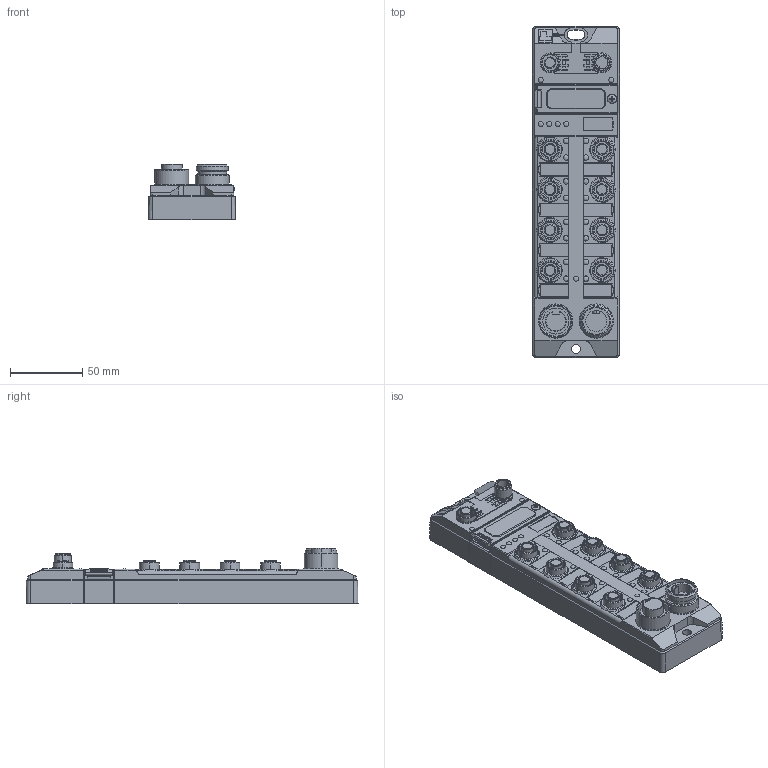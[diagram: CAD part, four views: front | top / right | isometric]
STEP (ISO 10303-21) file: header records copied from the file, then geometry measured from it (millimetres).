
FILE_DESCRIPTION (( 'STEP AP203' ), '1' );
FILE_NAME ('TBDP-L2.step', '2014-07-29T14:10:15', ( 'Turck User' ), ( '' ), 'SwSTEP 2.0', 'SolidWorks 2014', '' );
FILE_SCHEMA (( 'CONFIG_CONTROL_DESIGN' ));
Length unit declared in the file: millimetre
Products named in the file (1): TBDP-L2
Bounding box: 60.42 x 230.37 x 38.8 mm (x, y, z)
Volume: 331708.9 mm3; surface area: 54806.3 mm2
Topology: 1 solids, 1 shells, 879 faces, 2363 edges, 1546 vertices
Faces by surface type: plane 413, cylinder 285, cone 124, bspline 57
Entity records: 29994 total; most frequent: CARTESIAN_POINT 8115, ORIENTED_EDGE 4726, DIRECTION 4407, EDGE_CURVE 2363, VERTEX_POINT 1546, AXIS2_PLACEMENT_3D 1497, VECTOR 1413, LINE 1413
